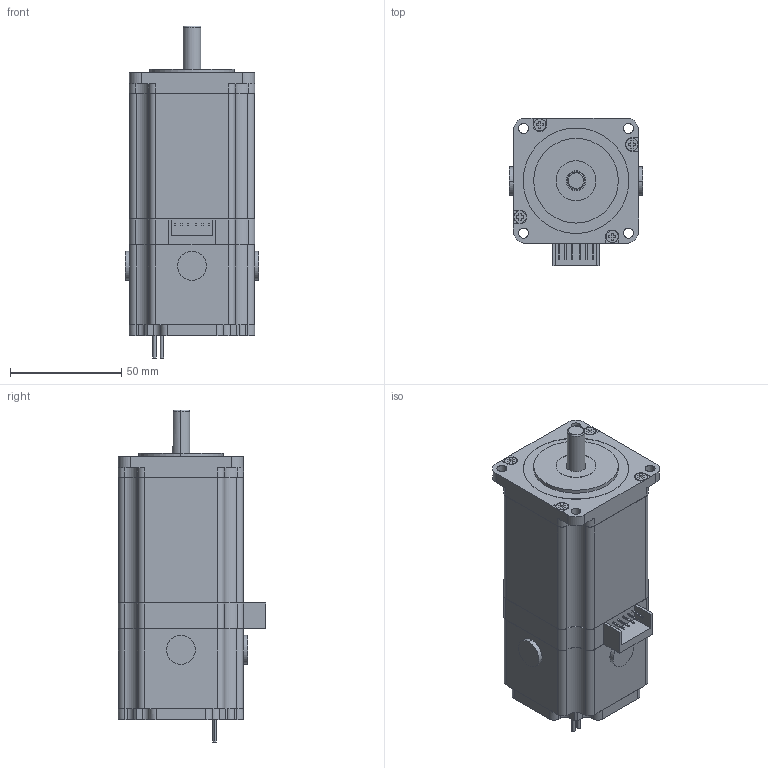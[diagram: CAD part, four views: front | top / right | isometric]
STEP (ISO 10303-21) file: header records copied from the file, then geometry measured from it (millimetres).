
FILE_DESCRIPTION (( 'STEP AP203' ), '1' );
FILE_NAME ('UB57D24-D30-678.STEP', '2020-06-30T07:18:31', ( '' ), ( '' ), 'SwSTEP 2.0', 'SolidWorks 2018', '' );
FILE_SCHEMA (( 'CONFIG_CONTROL_DESIGN' ));
Length unit declared in the file: millimetre
Products named in the file (1): UB57D24-D30-678
Bounding box: 60.2 x 66.4 x 149.5 mm (x, y, z)
Volume: 344512.1 mm3; surface area: 33227.8 mm2
Topology: 1 solids, 2 shells, 294 faces, 775 edges, 513 vertices
Faces by surface type: plane 178, cylinder 113, bspline 3
Entity records: 9253 total; most frequent: CARTESIAN_POINT 1661, DIRECTION 1592, ORIENTED_EDGE 1550, EDGE_CURVE 775, VECTOR 532, LINE 532, AXIS2_PLACEMENT_3D 530, VERTEX_POINT 513
